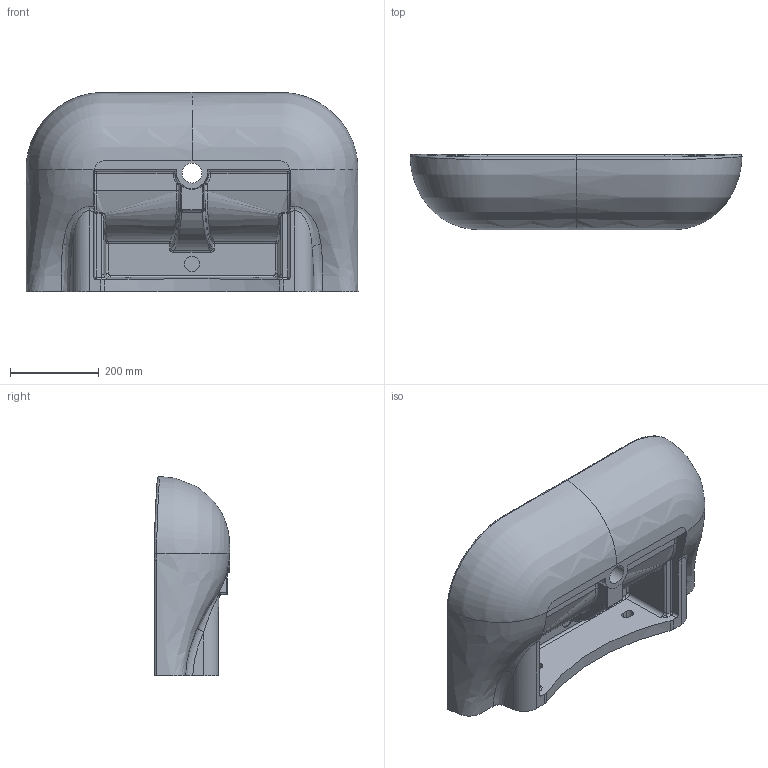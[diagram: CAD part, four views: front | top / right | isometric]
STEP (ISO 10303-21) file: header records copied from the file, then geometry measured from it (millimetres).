
FILE_DESCRIPTION (( 'STEP AP214' ), '1' );
FILE_NAME ('NUV200_75.STEP', '2017-12-13T08:49:30', ( '' ), ( '' ), 'SwSTEP 2.0', 'SolidWorks 2018', '' );
FILE_SCHEMA (( 'AUTOMOTIVE_DESIGN' ));
Length unit declared in the file: millimetre
Products named in the file (1): NUV200_75
Bounding box: 749.86 x 170 x 449.62 mm (x, y, z)
Volume: 19929760.4 mm3; surface area: 1085006.5 mm2
Topology: 1 solids, 1 shells, 155 faces, 398 edges, 228 vertices
Faces by surface type: bspline 59, cylinder 48, plane 31, sphere 12, torus 3, cone 2
Full cylindrical faces by diameter (mm): 35 x1, 45 x1
Entity records: 15428 total; most frequent: CARTESIAN_POINT 12038, ORIENTED_EDGE 750, DIRECTION 535, EDGE_CURVE 375, VERTEX_POINT 226, AXIS2_PLACEMENT_3D 207, EDGE_LOOP 165, FACE_OUTER_BOUND 157
